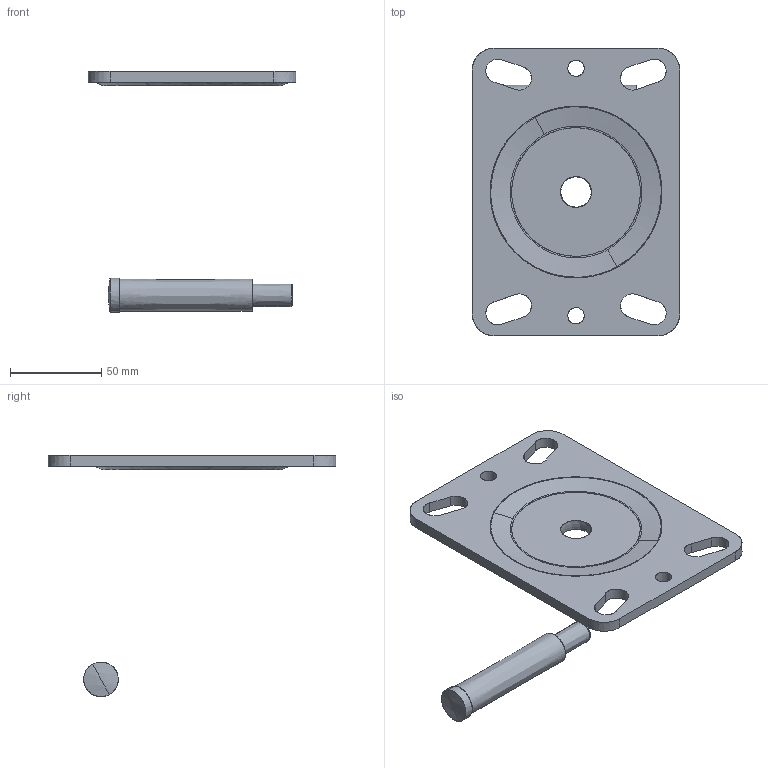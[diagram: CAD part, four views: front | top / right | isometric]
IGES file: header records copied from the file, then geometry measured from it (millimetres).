
Start section: JAMA-IS VERSION  1.0
Global section: file name: E:\tools-models\その他メーカー2\INOAC車輪\9月\KTU-150WJ-GS-11.igs; native system: CAM-TOOL; preprocessor: C3out Version 11.1.1.50212 (2015/02/12); author: NONE; organization: NONE; date: 190925.155207; units: millimetre
Bounding box: 114 x 158 x 132.5 mm (x, y, z)
Surface area: 49250.7 mm2 (no closed solid volume)
Topology: 0 solids, 0 shells, 62 faces, 3275 edges, 3285 vertices
Faces by surface type: bspline 62
